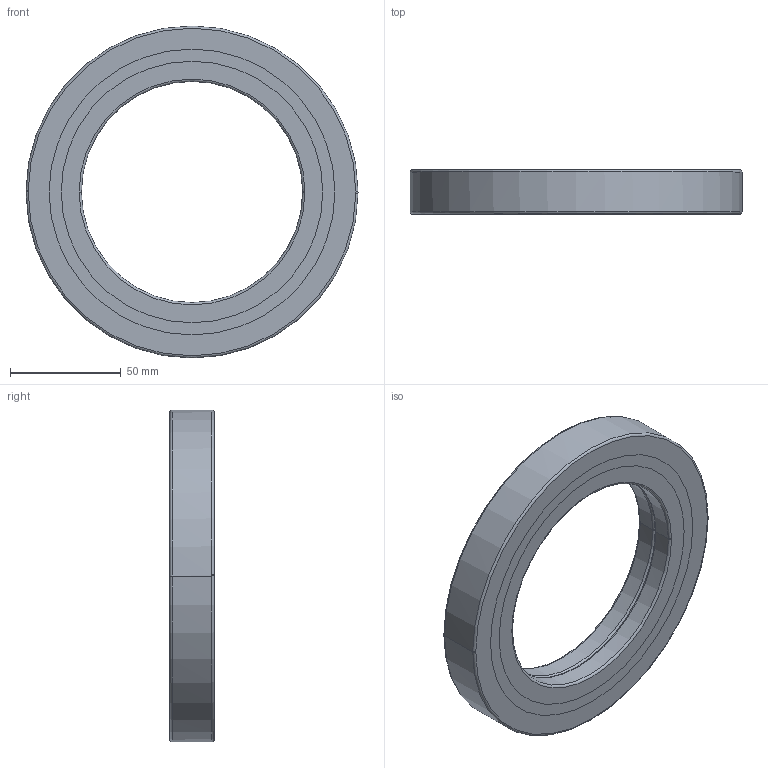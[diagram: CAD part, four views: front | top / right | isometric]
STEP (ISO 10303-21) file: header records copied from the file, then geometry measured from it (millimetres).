
FILE_DESCRIPTION(('no description'),'unknown implementation level');
FILE_NAME('CRBB10020_63.stp',' ',('HIWIN GmbH'),('CADClick - KiM GmbH - www.kimweb.de'),'unknown preprocess','ACIS','unknown authorization');
FILE_SCHEMA(('automotive_design'));
Length unit declared in the file: millimetre
Products named in the file (5): CRBB10020_1; CRBB10020_2; CRBB10020_3; CRBB10020_4; CRBB10020
Bounding box: 150 x 20 x 150 mm (x, y, z)
Volume: 160610.2 mm3; surface area: 63177.6 mm2
Topology: 5 solids, 5 shells, 54 faces, 120 edges, 76 vertices
Faces by surface type: torus 24, cylinder 20, plane 10
Entity records: 3096 total; most frequent: DIRECTION 338, STYLED_ITEM 255, PRESENTATION_STYLE_ASSIGNMENT 255, CARTESIAN_POINT 255, COLOUR_RGB 255, ORIENTED_EDGE 240, AXIS2_PLACEMENT_3D 159, EDGE_CURVE 120
